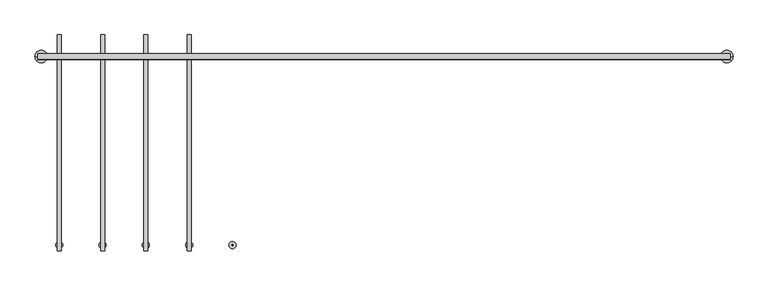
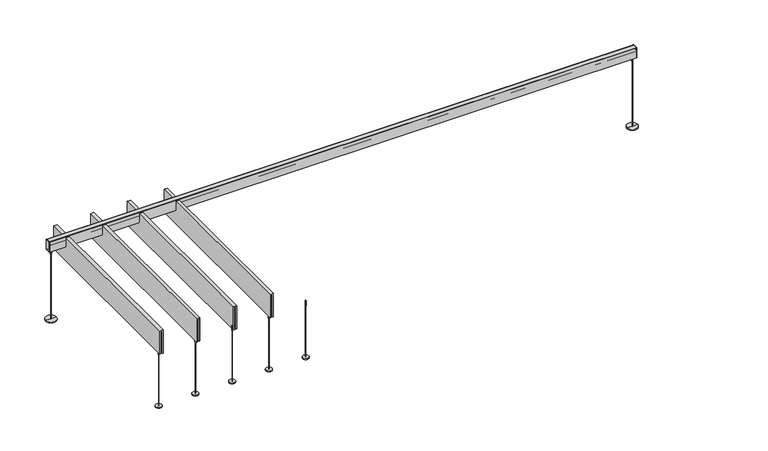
"""IFC4 building model written with IfcOpenShell, lengths in millimetres: light fixture geometry, Lighting_Fixture-Focal_Point-AirCore_Bridge-Cantilever-Seem_1_LED : FSM1SBW125LF30K1CUNVLD1J24_."""

from ifc_helpers import new_model, si_unit, point, frame, frame_2d, origin, origin_with_axes, place, context, project, spatial, polyline, circle_curve, trimmed, segment, composite_curve, outline, extrude, faceted_brep, source, transform, mapped, element, save
from ifc_brep_helpers import plane_surface, cylinder_surface, advanced_brep


def light_fixture_7f1f590e(model_context):
    return source(origin(), model_context, "Body", "SolidModel", [
        advanced_brep(
        [(-1066.8, -1330.325, 0.0), (-1065.8762465, -1330.325, 0.0), (-1067.7237535, -1330.325, 0.0), (-1065.8762465, -1330.325, 454.6203125), (-1067.7237535, -1330.325, 454.6203125), (-1062.83125, -1330.325, 454.6203125), (-1070.76875, -1330.325, 454.6203125), (-1062.83125, -1330.325, 499.0703125), (-1070.76875, -1330.325, 499.0703125), (-1066.8, -1330.325, 499.0703125)],
        [
            (0, 1),
            (1, 2, circle_curve(frame((-1066.8, -1330.325, 0.0), z_axis=(0.0, 0.0, -1.0), x_axis=(1.0, 0.0, 0.0)), 0.9237535)),
            (2, 0),
            (2, 1, circle_curve(frame((-1066.8, -1330.325, 0.0), z_axis=(0.0, 0.0, -1.0), x_axis=(1.0, 0.0, 0.0)), 0.9237535)),
            (1, 3),
            (3, 4, circle_curve(frame((-1066.8, -1330.325, 454.6203125), z_axis=(0.0, 0.0, -1.0), x_axis=(1.0, 0.0, 0.0)), 0.9237535)),
            (4, 2),
            (4, 3, circle_curve(frame((-1066.8, -1330.325, 454.6203125), z_axis=(0.0, 0.0, -1.0), x_axis=(1.0, 0.0, 0.0)), 0.9237535)),
            (3, 5),
            (5, 6, circle_curve(frame((-1066.8, -1330.325, 454.6203125), z_axis=(0.0, 0.0, -1.0), x_axis=(1.0, 0.0, 0.0)), 3.96875)),
            (6, 4),
            (6, 5, circle_curve(frame((-1066.8, -1330.325, 454.6203125), z_axis=(0.0, 0.0, -1.0), x_axis=(1.0, 0.0, 0.0)), 3.96875)),
            (5, 7),
            (7, 8, circle_curve(frame((-1066.8, -1330.325, 499.0703125), z_axis=(0.0, 0.0, -1.0), x_axis=(1.0, 0.0, 0.0)), 3.96875)),
            (8, 6),
            (8, 7, circle_curve(frame((-1066.8, -1330.325, 499.0703125), z_axis=(0.0, 0.0, -1.0), x_axis=(1.0, 0.0, 0.0)), 3.96875)),
            (7, 9),
            (9, 8),
        ],
        [
            plane_surface(frame((-1066.8, -1330.325, 0.0), z_axis=(0.0, 0.0, -1.0), x_axis=(1.0, 0.0, 0.0))),
            cylinder_surface(frame((-1066.8, -1330.325, 543.5203125), z_axis=(0.0, 0.0, -1.0), x_axis=(1.0, 0.0, 0.0)), 0.9237535),
            plane_surface(frame((-1066.8, -1330.325, 454.6203125), z_axis=(0.0, 0.0, -1.0), x_axis=(1.0, 0.0, 0.0))),
            cylinder_surface(frame((-1066.8, -1330.325, 543.5203125), z_axis=(0.0, 0.0, -1.0), x_axis=(1.0, 0.0, 0.0)), 3.96875),
            plane_surface(frame((-1066.8, -1330.325, 499.0703125), z_axis=(0.0, 0.0, 1.0), x_axis=(1.0, 0.0, 0.0))),
        ],
        [
            (0, [[1, 2, 3]]),
            (0, [[-3, 4, -1]]),
            (1, [[-2, 5, 6, 7]]),
            (1, [[-4, -7, 8, -5]]),
            (2, [[-6, 9, 10, 11]]),
            (2, [[-8, -11, 12, -9]]),
            (3, [[-10, 13, 14, 15]]),
            (3, [[-12, -15, 16, -13]]),
            (4, [[-14, 17, 18]]),
            (4, [[-16, -18, -17]]),
        ],
    ),
        extrude(outline(composite_curve([segment(trimmed(circle_curve(frame_2d((-1066.8, -1330.325)), 25.4), [point((-1066.8, -1355.725))], [point((-1066.8, -1304.925))], False, "CARTESIAN"), True, "CONTINUOUS"), segment(trimmed(circle_curve(frame_2d((-1066.8, -1330.325)), 25.4), [point((-1066.8, -1304.925))], [point((-1066.8, -1355.725))], False, "CARTESIAN"), True, "CONTINUOUS")], self_intersect=False)), origin_with_axes(), (0.0, 0.0, 1.0), 6.35),
        extrude(outline(polyline([(-1377.553125, 123.825), (-1365.646875, 123.825), (-1365.646875, -1343.025), (-1377.553125, -1343.025), (-1377.553125, 123.825)])), frame((0.0, 0.0, 486.3703125), z_axis=(0.0, 0.0, 1.0), x_axis=(1.0, 0.0, 0.0)), (0.0, 0.0, 1.0), 195.2625),
        extrude(outline(polyline([(689.5703125, -1357.709375), (689.5703125, -1385.490625), (486.3703125, -1385.490625), (486.3703125, -1377.553125), (681.6328125, -1377.553125), (681.6328125, -1365.646875), (486.3703125, -1365.646875), (486.3703125, -1357.709375), (689.5703125, -1357.709375)])), frame((0.0, -1371.6, 0.0), z_axis=(0.0, 1.0, 0.0), x_axis=(0.0, 0.0, 1.0)), (0.0, 0.0, 1.0), 1524.0),
        advanced_brep(
        [(-1371.6, -1330.325, 0.0), (-1370.6762465, -1330.325, 0.0), (-1372.5237535, -1330.325, 0.0), (-1370.6762465, -1330.325, 454.6203125), (-1372.5237535, -1330.325, 454.6203125), (-1367.63125, -1330.325, 454.6203125), (-1375.56875, -1330.325, 454.6203125), (-1367.63125, -1330.325, 499.0703125), (-1375.56875, -1330.325, 499.0703125), (-1371.6, -1330.325, 499.0703125)],
        [
            (0, 1),
            (1, 2, circle_curve(frame((-1371.6, -1330.325, 0.0), z_axis=(0.0, 0.0, -1.0), x_axis=(1.0, 0.0, 0.0)), 0.9237535)),
            (2, 0),
            (2, 1, circle_curve(frame((-1371.6, -1330.325, 0.0), z_axis=(0.0, 0.0, -1.0), x_axis=(1.0, 0.0, 0.0)), 0.9237535)),
            (1, 3),
            (3, 4, circle_curve(frame((-1371.6, -1330.325, 454.6203125), z_axis=(0.0, 0.0, -1.0), x_axis=(1.0, 0.0, 0.0)), 0.9237535)),
            (4, 2),
            (4, 3, circle_curve(frame((-1371.6, -1330.325, 454.6203125), z_axis=(0.0, 0.0, -1.0), x_axis=(1.0, 0.0, 0.0)), 0.9237535)),
            (3, 5),
            (5, 6, circle_curve(frame((-1371.6, -1330.325, 454.6203125), z_axis=(0.0, 0.0, -1.0), x_axis=(1.0, 0.0, 0.0)), 3.96875)),
            (6, 4),
            (6, 5, circle_curve(frame((-1371.6, -1330.325, 454.6203125), z_axis=(0.0, 0.0, -1.0), x_axis=(1.0, 0.0, 0.0)), 3.96875)),
            (5, 7),
            (7, 8, circle_curve(frame((-1371.6, -1330.325, 499.0703125), z_axis=(0.0, 0.0, -1.0), x_axis=(1.0, 0.0, 0.0)), 3.96875)),
            (8, 6),
            (8, 7, circle_curve(frame((-1371.6, -1330.325, 499.0703125), z_axis=(0.0, 0.0, -1.0), x_axis=(1.0, 0.0, 0.0)), 3.96875)),
            (7, 9),
            (9, 8),
        ],
        [
            plane_surface(frame((-1371.6, -1330.325, 0.0), z_axis=(0.0, 0.0, -1.0), x_axis=(1.0, 0.0, 0.0))),
            cylinder_surface(frame((-1371.6, -1330.325, 543.5203125), z_axis=(0.0, 0.0, -1.0), x_axis=(1.0, 0.0, 0.0)), 0.9237535),
            plane_surface(frame((-1371.6, -1330.325, 454.6203125), z_axis=(0.0, 0.0, -1.0), x_axis=(1.0, 0.0, 0.0))),
            cylinder_surface(frame((-1371.6, -1330.325, 543.5203125), z_axis=(0.0, 0.0, -1.0), x_axis=(1.0, 0.0, 0.0)), 3.96875),
            plane_surface(frame((-1371.6, -1330.325, 499.0703125), z_axis=(0.0, 0.0, 1.0), x_axis=(1.0, 0.0, 0.0))),
        ],
        [
            (0, [[1, 2, 3]]),
            (0, [[-3, 4, -1]]),
            (1, [[-2, 5, 6, 7]]),
            (1, [[-4, -7, 8, -5]]),
            (2, [[-6, 9, 10, 11]]),
            (2, [[-8, -11, 12, -9]]),
            (3, [[-10, 13, 14, 15]]),
            (3, [[-12, -15, 16, -13]]),
            (4, [[-14, 17, 18]]),
            (4, [[-16, -18, -17]]),
        ],
    ),
        extrude(outline(composite_curve([segment(trimmed(circle_curve(frame_2d((-1371.6, -1330.325)), 25.4), [point((-1371.6, -1355.725))], [point((-1371.6, -1304.925))], False, "CARTESIAN"), True, "CONTINUOUS"), segment(trimmed(circle_curve(frame_2d((-1371.6, -1330.325)), 25.4), [point((-1371.6, -1304.925))], [point((-1371.6, -1355.725))], False, "CARTESIAN"), True, "CONTINUOUS")], self_intersect=False)), origin_with_axes(), (0.0, 0.0, 1.0), 6.35),
        extrude(outline(polyline([(-1682.353125, 123.825), (-1670.446875, 123.825), (-1670.446875, -1343.025), (-1682.353125, -1343.025), (-1682.353125, 123.825)])), frame((0.0, 0.0, 486.3703125), z_axis=(0.0, 0.0, 1.0), x_axis=(1.0, 0.0, 0.0)), (0.0, 0.0, 1.0), 195.2625),
        extrude(outline(polyline([(689.5703125, -1662.509375), (689.5703125, -1690.290625), (486.3703125, -1690.290625), (486.3703125, -1682.353125), (681.6328125, -1682.353125), (681.6328125, -1670.446875), (486.3703125, -1670.446875), (486.3703125, -1662.509375), (689.5703125, -1662.509375)])), frame((0.0, -1371.6, 0.0), z_axis=(0.0, 1.0, 0.0), x_axis=(0.0, 0.0, 1.0)), (0.0, 0.0, 1.0), 1524.0),
        advanced_brep(
        [(-1676.4, -1330.325, 0.0), (-1675.4762465, -1330.325, 0.0), (-1677.3237535, -1330.325, 0.0), (-1675.4762465, -1330.325, 454.6203125), (-1677.3237535, -1330.325, 454.6203125), (-1672.43125, -1330.325, 454.6203125), (-1680.36875, -1330.325, 454.6203125), (-1672.43125, -1330.325, 499.0703125), (-1680.36875, -1330.325, 499.0703125), (-1676.4, -1330.325, 499.0703125)],
        [
            (0, 1),
            (1, 2, circle_curve(frame((-1676.4, -1330.325, 0.0), z_axis=(0.0, 0.0, -1.0), x_axis=(1.0, 0.0, 0.0)), 0.9237535)),
            (2, 0),
            (2, 1, circle_curve(frame((-1676.4, -1330.325, 0.0), z_axis=(0.0, 0.0, -1.0), x_axis=(1.0, 0.0, 0.0)), 0.9237535)),
            (1, 3),
            (3, 4, circle_curve(frame((-1676.4, -1330.325, 454.6203125), z_axis=(0.0, 0.0, -1.0), x_axis=(1.0, 0.0, 0.0)), 0.9237535)),
            (4, 2),
            (4, 3, circle_curve(frame((-1676.4, -1330.325, 454.6203125), z_axis=(0.0, 0.0, -1.0), x_axis=(1.0, 0.0, 0.0)), 0.9237535)),
            (3, 5),
            (5, 6, circle_curve(frame((-1676.4, -1330.325, 454.6203125), z_axis=(0.0, 0.0, -1.0), x_axis=(1.0, 0.0, 0.0)), 3.96875)),
            (6, 4),
            (6, 5, circle_curve(frame((-1676.4, -1330.325, 454.6203125), z_axis=(0.0, 0.0, -1.0), x_axis=(1.0, 0.0, 0.0)), 3.96875)),
            (5, 7),
            (7, 8, circle_curve(frame((-1676.4, -1330.325, 499.0703125), z_axis=(0.0, 0.0, -1.0), x_axis=(1.0, 0.0, 0.0)), 3.96875)),
            (8, 6),
            (8, 7, circle_curve(frame((-1676.4, -1330.325, 499.0703125), z_axis=(0.0, 0.0, -1.0), x_axis=(1.0, 0.0, 0.0)), 3.96875)),
            (7, 9),
            (9, 8),
        ],
        [
            plane_surface(frame((-1676.4, -1330.325, 0.0), z_axis=(0.0, 0.0, -1.0), x_axis=(1.0, 0.0, 0.0))),
            cylinder_surface(frame((-1676.4, -1330.325, 543.5203125), z_axis=(0.0, 0.0, -1.0), x_axis=(1.0, 0.0, 0.0)), 0.9237535),
            plane_surface(frame((-1676.4, -1330.325, 454.6203125), z_axis=(0.0, 0.0, -1.0), x_axis=(1.0, 0.0, 0.0))),
            cylinder_surface(frame((-1676.4, -1330.325, 543.5203125), z_axis=(0.0, 0.0, -1.0), x_axis=(1.0, 0.0, 0.0)), 3.96875),
            plane_surface(frame((-1676.4, -1330.325, 499.0703125), z_axis=(0.0, 0.0, 1.0), x_axis=(1.0, 0.0, 0.0))),
        ],
        [
            (0, [[1, 2, 3]]),
            (0, [[-3, 4, -1]]),
            (1, [[-2, 5, 6, 7]]),
            (1, [[-4, -7, 8, -5]]),
            (2, [[-6, 9, 10, 11]]),
            (2, [[-8, -11, 12, -9]]),
            (3, [[-10, 13, 14, 15]]),
            (3, [[-12, -15, 16, -13]]),
            (4, [[-14, 17, 18]]),
            (4, [[-16, -18, -17]]),
        ],
    ),
        extrude(outline(composite_curve([segment(trimmed(circle_curve(frame_2d((-1676.4, -1330.325)), 25.4), [point((-1676.4, -1355.725))], [point((-1676.4, -1304.925))], False, "CARTESIAN"), True, "CONTINUOUS"), segment(trimmed(circle_curve(frame_2d((-1676.4, -1330.325)), 25.4), [point((-1676.4, -1304.925))], [point((-1676.4, -1355.725))], False, "CARTESIAN"), True, "CONTINUOUS")], self_intersect=False)), origin_with_axes(), (0.0, 0.0, 1.0), 6.35),
        extrude(outline(polyline([(-1987.153125, 123.825), (-1975.246875, 123.825), (-1975.246875, -1343.025), (-1987.153125, -1343.025), (-1987.153125, 123.825)])), frame((0.0, 0.0, 486.3703125), z_axis=(0.0, 0.0, 1.0), x_axis=(1.0, 0.0, 0.0)), (0.0, 0.0, 1.0), 195.2625),
        extrude(outline(polyline([(689.5703125, -1967.309375), (689.5703125, -1995.090625), (486.3703125, -1995.090625), (486.3703125, -1987.153125), (681.6328125, -1987.153125), (681.6328125, -1975.246875), (486.3703125, -1975.246875), (486.3703125, -1967.309375), (689.5703125, -1967.309375)])), frame((0.0, -1371.6, 0.0), z_axis=(0.0, 1.0, 0.0), x_axis=(0.0, 0.0, 1.0)), (0.0, 0.0, 1.0), 1524.0),
        advanced_brep(
        [(-1981.2, -1330.325, 0.0), (-1980.2762465, -1330.325, 0.0), (-1982.1237535, -1330.325, 0.0), (-1980.2762465, -1330.325, 454.6203125), (-1982.1237535, -1330.325, 454.6203125), (-1977.23125, -1330.325, 454.6203125), (-1985.16875, -1330.325, 454.6203125), (-1977.23125, -1330.325, 499.0703125), (-1985.16875, -1330.325, 499.0703125), (-1981.2, -1330.325, 499.0703125)],
        [
            (0, 1),
            (1, 2, circle_curve(frame((-1981.2, -1330.325, 0.0), z_axis=(0.0, 0.0, -1.0), x_axis=(1.0, 0.0, 0.0)), 0.9237535)),
            (2, 0),
            (2, 1, circle_curve(frame((-1981.2, -1330.325, 0.0), z_axis=(0.0, 0.0, -1.0), x_axis=(1.0, 0.0, 0.0)), 0.9237535)),
            (1, 3),
            (3, 4, circle_curve(frame((-1981.2, -1330.325, 454.6203125), z_axis=(0.0, 0.0, -1.0), x_axis=(1.0, 0.0, 0.0)), 0.9237535)),
            (4, 2),
            (4, 3, circle_curve(frame((-1981.2, -1330.325, 454.6203125), z_axis=(0.0, 0.0, -1.0), x_axis=(1.0, 0.0, 0.0)), 0.9237535)),
            (3, 5),
            (5, 6, circle_curve(frame((-1981.2, -1330.325, 454.6203125), z_axis=(0.0, 0.0, -1.0), x_axis=(1.0, 0.0, 0.0)), 3.96875)),
            (6, 4),
            (6, 5, circle_curve(frame((-1981.2, -1330.325, 454.6203125), z_axis=(0.0, 0.0, -1.0), x_axis=(1.0, 0.0, 0.0)), 3.96875)),
            (5, 7),
            (7, 8, circle_curve(frame((-1981.2, -1330.325, 499.0703125), z_axis=(0.0, 0.0, -1.0), x_axis=(1.0, 0.0, 0.0)), 3.96875)),
            (8, 6),
            (8, 7, circle_curve(frame((-1981.2, -1330.325, 499.0703125), z_axis=(0.0, 0.0, -1.0), x_axis=(1.0, 0.0, 0.0)), 3.96875)),
            (7, 9),
            (9, 8),
        ],
        [
            plane_surface(frame((-1981.2, -1330.325, 0.0), z_axis=(0.0, 0.0, -1.0), x_axis=(1.0, 0.0, 0.0))),
            cylinder_surface(frame((-1981.2, -1330.325, 543.5203125), z_axis=(0.0, 0.0, -1.0), x_axis=(1.0, 0.0, 0.0)), 0.9237535),
            plane_surface(frame((-1981.2, -1330.325, 454.6203125), z_axis=(0.0, 0.0, -1.0), x_axis=(1.0, 0.0, 0.0))),
            cylinder_surface(frame((-1981.2, -1330.325, 543.5203125), z_axis=(0.0, 0.0, -1.0), x_axis=(1.0, 0.0, 0.0)), 3.96875),
            plane_surface(frame((-1981.2, -1330.325, 499.0703125), z_axis=(0.0, 0.0, 1.0), x_axis=(1.0, 0.0, 0.0))),
        ],
        [
            (0, [[1, 2, 3]]),
            (0, [[-3, 4, -1]]),
            (1, [[-2, 5, 6, 7]]),
            (1, [[-4, -7, 8, -5]]),
            (2, [[-6, 9, 10, 11]]),
            (2, [[-8, -11, 12, -9]]),
            (3, [[-10, 13, 14, 15]]),
            (3, [[-12, -15, 16, -13]]),
            (4, [[-14, 17, 18]]),
            (4, [[-16, -18, -17]]),
        ],
    ),
        extrude(outline(composite_curve([segment(trimmed(circle_curve(frame_2d((-1981.2, -1330.325)), 25.4), [point((-1981.2, -1355.725))], [point((-1981.2, -1304.925))], False, "CARTESIAN"), True, "CONTINUOUS"), segment(trimmed(circle_curve(frame_2d((-1981.2, -1330.325)), 25.4), [point((-1981.2, -1304.925))], [point((-1981.2, -1355.725))], False, "CARTESIAN"), True, "CONTINUOUS")], self_intersect=False)), origin_with_axes(), (0.0, 0.0, 1.0), 6.35),
        extrude(outline(polyline([(-2291.953125, 123.825), (-2280.046875, 123.825), (-2280.046875, -1343.025), (-2291.953125, -1343.025), (-2291.953125, 123.825)])), frame((0.0, 0.0, 486.3703125), z_axis=(0.0, 0.0, 1.0), x_axis=(1.0, 0.0, 0.0)), (0.0, 0.0, 1.0), 195.2625),
        extrude(outline(polyline([(689.5703125, -2272.109375), (689.5703125, -2299.890625), (486.3703125, -2299.890625), (486.3703125, -2291.953125), (681.6328125, -2291.953125), (681.6328125, -2280.046875), (486.3703125, -2280.046875), (486.3703125, -2272.109375), (689.5703125, -2272.109375)])), frame((0.0, -1371.6, 0.0), z_axis=(0.0, 1.0, 0.0), x_axis=(0.0, 0.0, 1.0)), (0.0, 0.0, 1.0), 1524.0),
        advanced_brep(
        [(-2286.0, -1330.325, 0.0), (-2285.0762465, -1330.325, 0.0), (-2286.9237535, -1330.325, 0.0), (-2285.0762465, -1330.325, 454.6203125), (-2286.9237535, -1330.325, 454.6203125), (-2282.03125, -1330.325, 454.6203125), (-2289.96875, -1330.325, 454.6203125), (-2282.03125, -1330.325, 499.0703125), (-2289.96875, -1330.325, 499.0703125), (-2286.0, -1330.325, 499.0703125)],
        [
            (0, 1),
            (1, 2, circle_curve(frame((-2286.0, -1330.325, 0.0), z_axis=(0.0, 0.0, -1.0), x_axis=(1.0, 0.0, 0.0)), 0.9237535)),
            (2, 0),
            (2, 1, circle_curve(frame((-2286.0, -1330.325, 0.0), z_axis=(0.0, 0.0, -1.0), x_axis=(1.0, 0.0, 0.0)), 0.9237535)),
            (1, 3),
            (3, 4, circle_curve(frame((-2286.0, -1330.325, 454.6203125), z_axis=(0.0, 0.0, -1.0), x_axis=(1.0, 0.0, 0.0)), 0.9237535)),
            (4, 2),
            (4, 3, circle_curve(frame((-2286.0, -1330.325, 454.6203125), z_axis=(0.0, 0.0, -1.0), x_axis=(1.0, 0.0, 0.0)), 0.9237535)),
            (3, 5),
            (5, 6, circle_curve(frame((-2286.0, -1330.325, 454.6203125), z_axis=(0.0, 0.0, -1.0), x_axis=(1.0, 0.0, 0.0)), 3.96875)),
            (6, 4),
            (6, 5, circle_curve(frame((-2286.0, -1330.325, 454.6203125), z_axis=(0.0, 0.0, -1.0), x_axis=(1.0, 0.0, 0.0)), 3.96875)),
            (5, 7),
            (7, 8, circle_curve(frame((-2286.0, -1330.325, 499.0703125), z_axis=(0.0, 0.0, -1.0), x_axis=(1.0, 0.0, 0.0)), 3.96875)),
            (8, 6),
            (8, 7, circle_curve(frame((-2286.0, -1330.325, 499.0703125), z_axis=(0.0, 0.0, -1.0), x_axis=(1.0, 0.0, 0.0)), 3.96875)),
            (7, 9),
            (9, 8),
        ],
        [
            plane_surface(frame((-2286.0, -1330.325, 0.0), z_axis=(0.0, 0.0, -1.0), x_axis=(1.0, 0.0, 0.0))),
            cylinder_surface(frame((-2286.0, -1330.325, 543.5203125), z_axis=(0.0, 0.0, -1.0), x_axis=(1.0, 0.0, 0.0)), 0.9237535),
            plane_surface(frame((-2286.0, -1330.325, 454.6203125), z_axis=(0.0, 0.0, -1.0), x_axis=(1.0, 0.0, 0.0))),
            cylinder_surface(frame((-2286.0, -1330.325, 543.5203125), z_axis=(0.0, 0.0, -1.0), x_axis=(1.0, 0.0, 0.0)), 3.96875),
            plane_surface(frame((-2286.0, -1330.325, 499.0703125), z_axis=(0.0, 0.0, 1.0), x_axis=(1.0, 0.0, 0.0))),
        ],
        [
            (0, [[1, 2, 3]]),
            (0, [[-3, 4, -1]]),
            (1, [[-2, 5, 6, 7]]),
            (1, [[-4, -7, 8, -5]]),
            (2, [[-6, 9, 10, 11]]),
            (2, [[-8, -11, 12, -9]]),
            (3, [[-10, 13, 14, 15]]),
            (3, [[-12, -15, 16, -13]]),
            (4, [[-14, 17, 18]]),
            (4, [[-16, -18, -17]]),
        ],
    ),
        extrude(outline(composite_curve([segment(trimmed(circle_curve(frame_2d((-2286.0, -1330.325)), 25.4), [point((-2286.0, -1355.725))], [point((-2286.0, -1304.925))], False, "CARTESIAN"), True, "CONTINUOUS"), segment(trimmed(circle_curve(frame_2d((-2286.0, -1330.325)), 25.4), [point((-2286.0, -1304.925))], [point((-2286.0, -1355.725))], False, "CARTESIAN"), True, "CONTINUOUS")], self_intersect=False)), origin_with_axes(), (0.0, 0.0, 1.0), 6.35),
        advanced_brep(
        [(2415.1602631, 0.0, 6.35), (2410.8397369, 0.0, 6.35), (2410.8397369, 0.0, 578.5929436), (2415.1602631, 0.0, 578.5929436), (2417.6304584, 0.0, 617.2870305), (2408.3695416, 0.0, 617.2870305), (2413.0, 0.0, 617.2870305), (2417.6304584, 0.0, 578.5929436), (2408.3695416, 0.0, 578.5929436), (2457.45, 0.0, 6.35), (2368.55, 0.0, 6.35), (2457.45, 0.0, 0.0), (2368.55, 0.0, 0.0), (2413.0, 0.0, 0.0)],
        [
            (0, 1, circle_curve(frame((2413.0, 0.0, 6.35), z_axis=(0.0, 0.0, 1.0), x_axis=(-1.0, 0.0, 0.0)), 2.1602631)),
            (1, 2),
            (2, 3, circle_curve(frame((2413.0, 0.0, 578.5929436), z_axis=(0.0, 0.0, -1.0), x_axis=(-1.0, 0.0, 0.0)), 2.1602631)),
            (3, 0),
            (1, 0, circle_curve(frame((2413.0, 0.0, 6.35), z_axis=(0.0, 0.0, 1.0), x_axis=(-1.0, 0.0, 0.0)), 2.1602631)),
            (3, 2, circle_curve(frame((2413.0, 0.0, 578.5929436), z_axis=(0.0, 0.0, -1.0), x_axis=(-1.0, 0.0, 0.0)), 2.1602631)),
            (4, 5, circle_curve(frame((2413.0, 0.0, 617.2870305), z_axis=(0.0, 0.0, 1.0), x_axis=(-1.0, 0.0, 0.0)), 4.6304584)),
            (5, 6),
            (6, 4),
            (5, 4, circle_curve(frame((2413.0, 0.0, 617.2870305), z_axis=(0.0, 0.0, 1.0), x_axis=(-1.0, 0.0, 0.0)), 4.6304584)),
            (7, 8, circle_curve(frame((2413.0, 0.0, 578.5929436), z_axis=(0.0, 0.0, 1.0), x_axis=(-1.0, 0.0, 0.0)), 4.6304584)),
            (8, 5),
            (4, 7),
            (8, 7, circle_curve(frame((2413.0, 0.0, 578.5929436), z_axis=(0.0, 0.0, 1.0), x_axis=(-1.0, 0.0, 0.0)), 4.6304584)),
            (2, 8),
            (7, 3),
            (9, 10, circle_curve(frame((2413.0, 0.0, 6.35), z_axis=(0.0, 0.0, 1.0), x_axis=(-1.0, 0.0, 0.0)), 44.45)),
            (10, 1),
            (0, 9),
            (10, 9, circle_curve(frame((2413.0, 0.0, 6.35), z_axis=(0.0, 0.0, 1.0), x_axis=(-1.0, 0.0, 0.0)), 44.45)),
            (11, 12, circle_curve(frame((2413.0, 0.0, 0.0), z_axis=(0.0, 0.0, 1.0), x_axis=(-1.0, 0.0, 0.0)), 44.45)),
            (12, 10),
            (9, 11),
            (12, 11, circle_curve(frame((2413.0, 0.0, 0.0), z_axis=(0.0, 0.0, 1.0), x_axis=(-1.0, 0.0, 0.0)), 44.45)),
            (13, 12),
            (11, 13),
        ],
        [
            cylinder_surface(frame((2413.0, 0.0, 1013.5679436), z_axis=(0.0, 0.0, -1.0), x_axis=(-1.0, 0.0, 0.0)), 2.1602631),
            plane_surface(frame((2413.0, 0.0, 617.2870305), z_axis=(0.0, 0.0, 1.0), x_axis=(-1.0, 0.0, 0.0))),
            cylinder_surface(frame((2413.0, 0.0, 1013.5679436), z_axis=(0.0, 0.0, -1.0), x_axis=(-1.0, 0.0, 0.0)), 4.6304584),
            plane_surface(frame((2413.0, 0.0, 578.5929436), z_axis=(0.0, 0.0, -1.0), x_axis=(-1.0, 0.0, 0.0))),
            plane_surface(frame((2413.0, 0.0, 6.35), z_axis=(0.0, 0.0, 1.0), x_axis=(-1.0, 0.0, 0.0))),
            cylinder_surface(frame((2413.0, 0.0, 1013.5679436), z_axis=(0.0, 0.0, -1.0), x_axis=(-1.0, 0.0, 0.0)), 44.45),
            plane_surface(frame((2413.0, 0.0, 0.0), z_axis=(0.0, 0.0, -1.0), x_axis=(-1.0, 0.0, 0.0))),
        ],
        [
            (0, [[1, 2, 3, 4]]),
            (0, [[5, -4, 6, -2]]),
            (1, [[7, 8, 9]]),
            (1, [[10, -9, -8]]),
            (2, [[11, 12, -7, 13]]),
            (2, [[14, -13, -10, -12]]),
            (3, [[-3, 15, -11, 16]]),
            (3, [[-6, -16, -14, -15]]),
            (4, [[17, 18, -1, 19]]),
            (4, [[20, -19, -5, -18]]),
            (5, [[21, 22, -17, 23]]),
            (5, [[24, -23, -20, -22]]),
            (6, [[25, -21, 26]]),
            (6, [[-26, -24, -25]]),
        ],
    ),
        faceted_brep([(-2435.7759239, 18.258255, 683.6980748), (-2435.7759239, 15.7110021, 680.3177561), (-2435.7759239, 14.4431682, 681.2731375), (-2435.7759239, 17.0442657, 684.7249104), (-2435.7759239, 13.8854155, 686.5486734), (-2435.7759239, 16.1364037, 692.4126981), (-2435.7759239, 17.464505, 692.4126981), (-2435.7759239, 17.464505, 694.2092414), (-2435.7759239, -17.464505, 694.2092414), (-2435.7759239, -17.464505, 692.4126981), (-2435.7759239, -16.1364037, 692.4126981), (-2435.7759239, -13.8854155, 686.5486734), (-2435.7759239, -17.0442657, 684.7249104), (-2435.7759239, -14.4431682, 681.2731375), (-2435.7759239, -15.7024761, 680.3241809), (-2435.7759239, -18.258255, 683.715814), (-2435.7759239, -18.258255, 685.8571004), (-2435.7759239, -15.8533687, 687.2455621), (-2435.7759239, -17.2274622, 690.8251981), (-2435.7759239, -19.052005, 690.8251981), (-2435.7759239, -19.052005, 698.5), (-2435.7759239, 19.052005, 698.5), (-2435.7759239, 19.052005, 690.8251981), (-2435.7759239, 17.2274622, 690.8251981), (-2435.7759239, 15.8533687, 687.2455621), (-2435.7759239, 18.258255, 685.8571004), (2435.7759239, 18.258255, 683.6980748), (2435.7759239, 18.258255, 685.8571004), (2435.7759239, 15.8533687, 687.2455621), (2435.7759239, 17.2274622, 690.8251981), (2435.7759239, 19.052005, 690.8251981), (2435.7759239, 19.052005, 698.5), (2435.7759239, -19.052005, 698.5), (2435.7759239, -19.052005, 690.8251981), (2435.7759239, -17.2274622, 690.8251981), (2435.7759239, -15.8533687, 687.2455621), (2435.7759239, -18.258255, 685.8571004), (2435.7759239, -18.258255, 683.715814), (2435.7759239, -15.7024761, 680.3241809), (2435.7759239, -14.4431682, 681.2731375), (2435.7759239, -17.0442657, 684.7249104), (2435.7759239, -13.8854155, 686.5486734), (2435.7759239, -16.1364037, 692.4126981), (2435.7759239, -17.464505, 692.4126981), (2435.7759239, -17.464505, 694.2092414), (2435.7759239, 17.464505, 694.2092414), (2435.7759239, 17.464505, 692.4126981), (2435.7759239, 16.1364037, 692.4126981), (2435.7759239, 13.8854155, 686.5486734), (2435.7759239, 17.0442657, 684.7249104), (2435.7759239, 14.4431682, 681.2731375), (2435.7759239, 15.7110021, 680.3177561), (2434.1726379, 17.464505, 694.2092414), (2434.1726379, 17.464505, 696.9125), (-2434.1726379, 17.464505, 696.9125), (-2434.1726379, 17.464505, 694.2092414), (2434.1726379, -17.464505, 696.9125), (-2434.1726379, -17.464505, 696.9125), (-2434.1726379, -17.464505, 694.2092414), (2434.1726379, -17.464505, 694.2092414), (2434.1726379, -19.052005, 698.5), (-2434.1726379, -19.052005, 698.5), (2434.1726379, 19.052005, 698.5), (-2434.1726379, 19.052005, 698.5)], [[[0, 1, 2, 3, 4, 5, 6, 7, 8, 9, 10, 11, 12, 13, 14, 15, 16, 17, 18, 19, 20, 21, 22, 23, 24, 25]], [[26, 27, 28, 29, 30, 31, 32, 33, 34, 35, 36, 37, 38, 39, 40, 41, 42, 43, 44, 45, 46, 47, 48, 49, 50, 51]], [[1, 0, 26, 51]], [[2, 1, 51, 50]], [[3, 2, 50, 49]], [[4, 3, 49, 48]], [[5, 4, 48, 47]], [[6, 5, 47, 46]], [[6, 46, 45, 52, 53, 54, 55, 7]], [[54, 53, 56, 57]], [[43, 9, 8, 58, 57, 56, 59, 44]], [[10, 9, 43, 42]], [[11, 10, 42, 41]], [[12, 11, 41, 40]], [[13, 12, 40, 39]], [[14, 13, 39, 38]], [[15, 14, 38, 37]], [[16, 15, 37, 36]], [[17, 16, 36, 35]], [[18, 17, 35, 34]], [[19, 18, 34, 33]], [[20, 19, 33, 32, 60, 61]], [[21, 20, 61, 60, 32, 31, 62, 63]], [[31, 30, 22, 21, 63, 62]], [[23, 22, 30, 29]], [[24, 23, 29, 28]], [[25, 24, 28, 27]], [[0, 25, 27, 26]], [[8, 7, 55, 58]], [[45, 44, 59, 52]], [[58, 55, 54, 57]], [[52, 59, 56, 53]]]),
        extrude(outline(polyline([(2438.4, 21.2328125), (2438.4, -21.2328125), (2435.7759239, -21.2328125), (2435.7759239, 21.2328125), (2438.4, 21.2328125)])), frame((0.0, 0.0, 609.6), z_axis=(0.0, 0.0, 1.0), x_axis=(1.0, 0.0, 0.0)), (0.0, 0.0, 1.0), 88.9),
        extrude(outline(polyline([(-2438.4, 21.2328125), (-2435.7759239, 21.2328125), (-2435.7759239, -21.2328125), (-2438.4, -21.2328125), (-2438.4, 21.2328125)])), frame((0.0, 0.0, 609.6), z_axis=(0.0, 0.0, 1.0), x_axis=(1.0, 0.0, 0.0)), (0.0, 0.0, 1.0), 88.9),
        extrude(outline(polyline([(21.2328125, 698.5), (21.2328125, 609.6), (19.5658437, 609.6), (16.6238378, 611.6821699), (17.4679179, 612.8748144), (19.1530671, 611.6821699), (19.1530671, 615.2558491), (-19.1530671, 615.2558491), (-19.1530671, 611.6821699), (-17.4679179, 612.8748144), (-16.6238378, 611.6821699), (-19.5658437, 609.6), (-21.2328125, 609.6), (-21.2328125, 698.5), (-19.052005, 698.5), (-19.052005, 667.2378262), (-13.3446628, 664.4541694), (-16.5752011, 657.8305842), (-19.052005, 657.8305842), (-19.052005, 618.8340085), (-17.489624, 617.5230152), (-11.6590079, 617.5230152), (-11.6590079, 622.6953899), (-10.1171022, 624.2372956), (-6.1086881, 624.2372956), (-4.5777065, 622.706314), (-4.5777065, 617.5230152), (-1.2903926, 617.5230152), (-1.2903926, 623.9573244), (1.2903926, 623.9573244), (1.2903926, 617.5230152), (4.5777065, 617.5230152), (4.5777065, 622.706314), (6.1086881, 624.2372956), (10.1171022, 624.2372956), (11.6590079, 622.6953899), (11.6590079, 617.5230152), (17.489624, 617.5230152), (19.052005, 618.8340085), (19.052005, 657.8305842), (16.5752011, 657.8305842), (13.3446628, 664.4541694), (19.052005, 667.2378262), (19.052005, 698.5), (21.2328125, 698.5)])), frame((-2435.7759239, 0.0, 0.0), z_axis=(1.0, 0.0, 0.0), x_axis=(0.0, 1.0, 0.0)), (0.0, 0.0, 1.0), 4871.5518478),
        extrude(outline(polyline([(16.2455373, 687.0191435), (17.7983995, 689.7087796), (18.4858071, 689.3119046), (17.32982, 687.3096761), (19.052005, 686.3153722), (19.052005, 667.2378262), (13.3446628, 664.4541694), (-13.3446628, 664.4541694), (-19.052005, 667.2378262), (-19.052005, 686.3153722), (-17.32982, 687.3096761), (-18.4858071, 689.3119046), (-17.7983995, 689.7087796), (-16.2455373, 687.0191435), (-18.258255, 685.8571004), (-18.258255, 667.7338163), (-13.1614111, 665.2479194), (13.1614111, 665.2479194), (18.258255, 667.7338163), (18.258255, 685.8571004), (16.2455373, 687.0191435)])), frame((-2435.7759239, 0.0, 0.0), z_axis=(1.0, 0.0, 0.0), x_axis=(0.0, 1.0, 0.0)), (0.0, 0.0, 1.0), 4871.5518478),
        advanced_brep(
        [(-2410.8397369, 0.0, 6.35), (-2415.1602631, 0.0, 6.35), (-2415.1602631, 0.0, 578.5929436), (-2410.8397369, 0.0, 578.5929436), (-2408.3695416, 0.0, 617.2870305), (-2417.6304584, 0.0, 617.2870305), (-2413.0, 0.0, 617.2870305), (-2408.3695416, 0.0, 578.5929436), (-2417.6304584, 0.0, 578.5929436), (-2368.55, 0.0, 6.35), (-2457.45, 0.0, 6.35), (-2368.55, 0.0, 0.0), (-2457.45, 0.0, 0.0), (-2413.0, 0.0, 0.0)],
        [
            (0, 1, circle_curve(frame((-2413.0, 0.0, 6.35), z_axis=(0.0, 0.0, 1.0), x_axis=(-1.0, 0.0, 0.0)), 2.1602631)),
            (1, 2),
            (2, 3, circle_curve(frame((-2413.0, 0.0, 578.5929436), z_axis=(0.0, 0.0, -1.0), x_axis=(-1.0, 0.0, 0.0)), 2.1602631)),
            (3, 0),
            (1, 0, circle_curve(frame((-2413.0, 0.0, 6.35), z_axis=(0.0, 0.0, 1.0), x_axis=(-1.0, 0.0, 0.0)), 2.1602631)),
            (3, 2, circle_curve(frame((-2413.0, 0.0, 578.5929436), z_axis=(0.0, 0.0, -1.0), x_axis=(-1.0, 0.0, 0.0)), 2.1602631)),
            (4, 5, circle_curve(frame((-2413.0, 0.0, 617.2870305), z_axis=(0.0, 0.0, 1.0), x_axis=(-1.0, 0.0, 0.0)), 4.6304584)),
            (5, 6),
            (6, 4),
            (5, 4, circle_curve(frame((-2413.0, 0.0, 617.2870305), z_axis=(0.0, 0.0, 1.0), x_axis=(-1.0, 0.0, 0.0)), 4.6304584)),
            (7, 8, circle_curve(frame((-2413.0, 0.0, 578.5929436), z_axis=(0.0, 0.0, 1.0), x_axis=(-1.0, 0.0, 0.0)), 4.6304584)),
            (8, 5),
            (4, 7),
            (8, 7, circle_curve(frame((-2413.0, 0.0, 578.5929436), z_axis=(0.0, 0.0, 1.0), x_axis=(-1.0, 0.0, 0.0)), 4.6304584)),
            (2, 8),
            (7, 3),
            (9, 10, circle_curve(frame((-2413.0, 0.0, 6.35), z_axis=(0.0, 0.0, 1.0), x_axis=(-1.0, 0.0, 0.0)), 44.45)),
            (10, 1),
            (0, 9),
            (10, 9, circle_curve(frame((-2413.0, 0.0, 6.35), z_axis=(0.0, 0.0, 1.0), x_axis=(-1.0, 0.0, 0.0)), 44.45)),
            (11, 12, circle_curve(frame((-2413.0, 0.0, 0.0), z_axis=(0.0, 0.0, 1.0), x_axis=(-1.0, 0.0, 0.0)), 44.45)),
            (12, 10),
            (9, 11),
            (12, 11, circle_curve(frame((-2413.0, 0.0, 0.0), z_axis=(0.0, 0.0, 1.0), x_axis=(-1.0, 0.0, 0.0)), 44.45)),
            (13, 12),
            (11, 13),
        ],
        [
            cylinder_surface(frame((-2413.0, 0.0, 1013.5679436), z_axis=(0.0, 0.0, -1.0), x_axis=(-1.0, 0.0, 0.0)), 2.1602631),
            plane_surface(frame((-2413.0, 0.0, 617.2870305), z_axis=(0.0, 0.0, 1.0), x_axis=(-1.0, 0.0, 0.0))),
            cylinder_surface(frame((-2413.0, 0.0, 1013.5679436), z_axis=(0.0, 0.0, -1.0), x_axis=(-1.0, 0.0, 0.0)), 4.6304584),
            plane_surface(frame((-2413.0, 0.0, 578.5929436), z_axis=(0.0, 0.0, -1.0), x_axis=(-1.0, 0.0, 0.0))),
            plane_surface(frame((-2413.0, 0.0, 6.35), z_axis=(0.0, 0.0, 1.0), x_axis=(-1.0, 0.0, 0.0))),
            cylinder_surface(frame((-2413.0, 0.0, 1013.5679436), z_axis=(0.0, 0.0, -1.0), x_axis=(-1.0, 0.0, 0.0)), 44.45),
            plane_surface(frame((-2413.0, 0.0, 0.0), z_axis=(0.0, 0.0, -1.0), x_axis=(-1.0, 0.0, 0.0))),
        ],
        [
            (0, [[1, 2, 3, 4]]),
            (0, [[5, -4, 6, -2]]),
            (1, [[7, 8, 9]]),
            (1, [[10, -9, -8]]),
            (2, [[11, 12, -7, 13]]),
            (2, [[14, -13, -10, -12]]),
            (3, [[-3, 15, -11, 16]]),
            (3, [[-6, -16, -14, -15]]),
            (4, [[17, 18, -1, 19]]),
            (4, [[20, -19, -5, -18]]),
            (5, [[21, 22, -17, 23]]),
            (5, [[24, -23, -20, -22]]),
            (6, [[25, -21, 26]]),
            (6, [[-26, -24, -25]]),
        ],
    ),
    ])


if __name__ == "__main__":
    model = new_model("IFC4")
    model_context = context("Model", 3, world=origin())
    ifc_project = project(units=[si_unit("LENGTHUNIT", "METRE", prefix="MILLI")], contexts=[model_context])
    site = spatial("IfcSite", under=ifc_project)
    building = spatial("IfcBuilding", under=site)
    placement = place(None, origin())
    light_fixture_shape = light_fixture_7f1f590e(model_context)
    element("IfcLightFixture", 1, ObjectType="Lighting_Fixture-Focal_Point-AirCore_Bridge-Cantilever-Seem_1_LED : FSM1SBW125LF30K1CUNVLD1J24_", at=placement, inside=building, context=model_context, shape_type="MappedRepresentation", body=[
        mapped(light_fixture_shape, transform((0.0, 0.0, 0.0), x_axis=(1.0, 0.0, 0.0), y_axis=(0.0, 1.0, 0.0), z_axis=(0.0, 0.0, 1.0))),
    ])
    save(model, "model.ifc")
